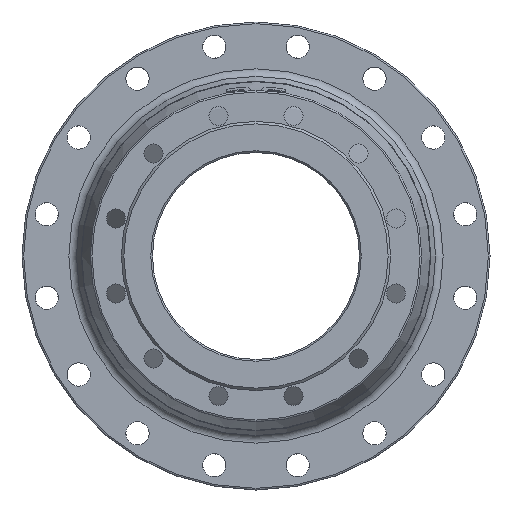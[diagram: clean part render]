
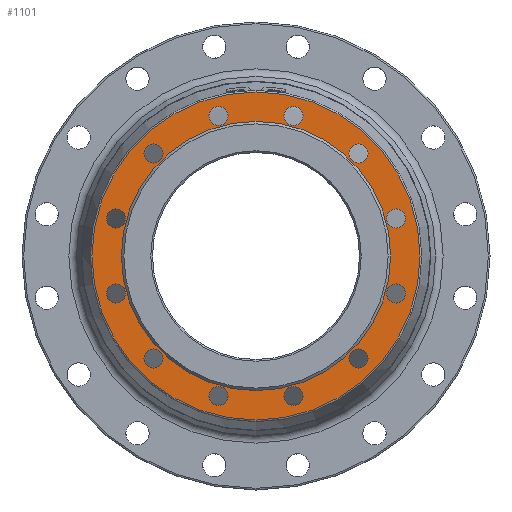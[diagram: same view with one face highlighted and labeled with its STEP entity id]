
A CAD part, left-side view. The second image highlights one B-rep face of the part: STEP entity #1101.
In plain terms, the highlighted planar face has unit normal (-1, 0, 0).
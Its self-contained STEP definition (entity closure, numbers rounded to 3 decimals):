
#4 = EDGE_LOOP ( 'NONE', ( #1000 ) ) ;
#81 = CIRCLE ( 'NONE', #2682, 11.5 ) ;
#111 = FACE_BOUND ( 'NONE', #119, .T. ) ;
#116 = CARTESIAN_POINT ( 'NONE',  ( 3., -178.996, -51.043 ) ) ;
#119 = EDGE_LOOP ( 'NONE', ( #507 ) ) ;
#128 = ORIENTED_EDGE ( 'NONE', *, *, #1301, .F. ) ;
#158 = DIRECTION ( 'NONE',  ( -1., 0., 0. ) ) ;
#177 = ORIENTED_EDGE ( 'NONE', *, *, #2835, .F. ) ;
#196 = AXIS2_PLACEMENT_3D ( 'NONE', #563, #2778, #605 ) ;
#205 = ORIENTED_EDGE ( 'NONE', *, *, #330, .F. ) ;
#231 = EDGE_LOOP ( 'NONE', ( #1977 ) ) ;
#253 = CIRCLE ( 'NONE', #2913, 11.5 ) ;
#269 = CARTESIAN_POINT ( 'NONE',  ( 3., -169.037, -45.293 ) ) ;
#296 = FACE_BOUND ( 'NONE', #3067, .T. ) ;
#313 = CIRCLE ( 'NONE', #2297, 11.5 ) ;
#330 = EDGE_CURVE ( 'NONE', #1113, #1113, #81, .T. ) ;
#341 = VERTEX_POINT ( 'NONE', #116 ) ;
#364 = DIRECTION ( 'NONE',  ( 0., 0., -1. ) ) ;
#423 = ORIENTED_EDGE ( 'NONE', *, *, #436, .F. ) ;
#436 = EDGE_CURVE ( 'NONE', #1080, #1080, #2166, .T. ) ;
#474 = EDGE_LOOP ( 'NONE', ( #2777 ) ) ;
#486 = EDGE_CURVE ( 'NONE', #2962, #2962, #1558, .T. ) ;
#507 = ORIENTED_EDGE ( 'NONE', *, *, #486, .F. ) ;
#534 = CIRCLE ( 'NONE', #2118, 11.5 ) ;
#563 = CARTESIAN_POINT ( 'NONE',  ( 3., 45.293, -169.037 ) ) ;
#568 = FACE_BOUND ( 'NONE', #4, .T. ) ;
#578 = DIRECTION ( 'NONE',  ( 0., 0.866, 0.5 ) ) ;
#591 = EDGE_CURVE ( 'NONE', #1881, #1881, #2346, .T. ) ;
#605 = DIRECTION ( 'NONE',  ( 0., 0.5, -0.866 ) ) ;
#617 = VERTEX_POINT ( 'NONE', #1189 ) ;
#647 = CARTESIAN_POINT ( 'NONE',  ( 3., 123.744, -123.744 ) ) ;
#668 = DIRECTION ( 'NONE',  ( 0., 0., -1. ) ) ;
#682 = CARTESIAN_POINT ( 'NONE',  ( 3., -123.744, 123.744 ) ) ;
#709 = DIRECTION ( 'NONE',  ( 0., -0.866, 0.5 ) ) ;
#718 = CIRCLE ( 'NONE', #2460, 11.5 ) ;
#725 = CARTESIAN_POINT ( 'NONE',  ( 3., 0., -198. ) ) ;
#760 = CARTESIAN_POINT ( 'NONE',  ( 3., -45.293, -169.037 ) ) ;
#775 = CIRCLE ( 'NONE', #3420, 11.5 ) ;
#812 = EDGE_LOOP ( 'NONE', ( #128 ) ) ;
#819 = FACE_OUTER_BOUND ( 'NONE', #2888, .T. ) ;
#840 = FACE_BOUND ( 'NONE', #2081, .T. ) ;
#845 = CARTESIAN_POINT ( 'NONE',  ( 3., 45.293, 180.537 ) ) ;
#883 = AXIS2_PLACEMENT_3D ( 'NONE', #2303, #2839, #668 ) ;
#907 = DIRECTION ( 'NONE',  ( -1., 0., 0. ) ) ;
#923 = EDGE_LOOP ( 'NONE', ( #423 ) ) ;
#936 = CARTESIAN_POINT ( 'NONE',  ( 3., -180.537, 45.293 ) ) ;
#960 = VERTEX_POINT ( 'NONE', #936 ) ;
#971 = EDGE_CURVE ( 'NONE', #341, #341, #534, .T. ) ;
#981 = DIRECTION ( 'NONE',  ( 0., -0.5, 0.866 ) ) ;
#1000 = ORIENTED_EDGE ( 'NONE', *, *, #1444, .F. ) ;
#1007 = AXIS2_PLACEMENT_3D ( 'NONE', #1123, #1139, #3266 ) ;
#1021 = EDGE_LOOP ( 'NONE', ( #3085 ) ) ;
#1023 = CARTESIAN_POINT ( 'NONE',  ( 3., -123.744, -123.744 ) ) ;
#1027 = CARTESIAN_POINT ( 'NONE',  ( 3., -133.703, 129.494 ) ) ;
#1067 = EDGE_CURVE ( 'NONE', #617, #617, #1947, .T. ) ;
#1080 = VERTEX_POINT ( 'NONE', #2147 ) ;
#1101 = ADVANCED_FACE ( 'NONE', ( #819, #2977, #3255, #840, #2748, #1912, #2995, #568, #2727, #296, #3382, #2852, #111, #1759 ), #2594, .F. ) ;
#1113 = VERTEX_POINT ( 'NONE', #1644 ) ;
#1123 = CARTESIAN_POINT ( 'NONE',  ( 3., 169.037, -45.293 ) ) ;
#1139 = DIRECTION ( 'NONE',  ( -1., 0., 0. ) ) ;
#1159 = EDGE_CURVE ( 'NONE', #960, #960, #775, .T. ) ;
#1189 = CARTESIAN_POINT ( 'NONE',  ( 3., 0., 162.5 ) ) ;
#1213 = DIRECTION ( 'NONE',  ( -1., 0., 0. ) ) ;
#1229 = AXIS2_PLACEMENT_3D ( 'NONE', #3263, #3004, #578 ) ;
#1248 = CARTESIAN_POINT ( 'NONE',  ( 3., 51.043, -178.996 ) ) ;
#1261 = VERTEX_POINT ( 'NONE', #1027 ) ;
#1280 = AXIS2_PLACEMENT_3D ( 'NONE', #2318, #2281, #2051 ) ;
#1294 = DIRECTION ( 'NONE',  ( -1., 0., 0. ) ) ;
#1301 = EDGE_CURVE ( 'NONE', #2308, #2308, #253, .T. ) ;
#1355 = DIRECTION ( 'NONE',  ( 0., 0., 1. ) ) ;
#1380 = CARTESIAN_POINT ( 'NONE',  ( 3., 178.996, 51.043 ) ) ;
#1444 = EDGE_CURVE ( 'NONE', #1490, #1490, #1455, .T. ) ;
#1455 = CIRCLE ( 'NONE', #196, 11.5 ) ;
#1469 = CARTESIAN_POINT ( 'NONE',  ( 3., -169.037, 45.293 ) ) ;
#1490 = VERTEX_POINT ( 'NONE', #1248 ) ;
#1558 = CIRCLE ( 'NONE', #2008, 11.5 ) ;
#1602 = DIRECTION ( 'NONE',  ( -1., 0., 0. ) ) ;
#1644 = CARTESIAN_POINT ( 'NONE',  ( 3., 133.703, -129.494 ) ) ;
#1697 = CARTESIAN_POINT ( 'NONE',  ( 3., 180.537, -45.293 ) ) ;
#1703 = EDGE_LOOP ( 'NONE', ( #2647 ) ) ;
#1750 = ORIENTED_EDGE ( 'NONE', *, *, #1159, .F. ) ;
#1752 = VERTEX_POINT ( 'NONE', #3333 ) ;
#1759 = FACE_BOUND ( 'NONE', #3398, .T. ) ;
#1781 = AXIS2_PLACEMENT_3D ( 'NONE', #2500, #3270, #2442 ) ;
#1815 = EDGE_CURVE ( 'NONE', #1752, #1752, #313, .T. ) ;
#1881 = VERTEX_POINT ( 'NONE', #1380 ) ;
#1912 = FACE_BOUND ( 'NONE', #812, .T. ) ;
#1947 = CIRCLE ( 'NONE', #1781, 162.5 ) ;
#1963 = ORIENTED_EDGE ( 'NONE', *, *, #1067, .F. ) ;
#1976 = EDGE_LOOP ( 'NONE', ( #205 ) ) ;
#1977 = ORIENTED_EDGE ( 'NONE', *, *, #1815, .F. ) ;
#2004 = DIRECTION ( 'NONE',  ( 0., -1., 0. ) ) ;
#2008 = AXIS2_PLACEMENT_3D ( 'NONE', #2671, #2921, #1355 ) ;
#2051 = DIRECTION ( 'NONE',  ( 0., 0.5, 0.866 ) ) ;
#2081 = EDGE_LOOP ( 'NONE', ( #1750 ) ) ;
#2098 = DIRECTION ( 'NONE',  ( 0., 0., -1. ) ) ;
#2118 = AXIS2_PLACEMENT_3D ( 'NONE', #269, #1294, #2366 ) ;
#2125 = EDGE_LOOP ( 'NONE', ( #177 ) ) ;
#2147 = CARTESIAN_POINT ( 'NONE',  ( 3., 129.494, 133.703 ) ) ;
#2166 = CIRCLE ( 'NONE', #1280, 11.5 ) ;
#2266 = CARTESIAN_POINT ( 'NONE',  ( 3., -45.293, 169.037 ) ) ;
#2281 = DIRECTION ( 'NONE',  ( -1., 0., 0. ) ) ;
#2297 = AXIS2_PLACEMENT_3D ( 'NONE', #760, #3405, #2098 ) ;
#2303 = CARTESIAN_POINT ( 'NONE',  ( 3., 162.5, 0. ) ) ;
#2308 = VERTEX_POINT ( 'NONE', #3052 ) ;
#2318 = CARTESIAN_POINT ( 'NONE',  ( 3., 123.744, 123.744 ) ) ;
#2343 = VERTEX_POINT ( 'NONE', #2929 ) ;
#2346 = CIRCLE ( 'NONE', #1229, 11.5 ) ;
#2366 = DIRECTION ( 'NONE',  ( 0., -0.866, -0.5 ) ) ;
#2442 = DIRECTION ( 'NONE',  ( 0., 0., 1. ) ) ;
#2460 = AXIS2_PLACEMENT_3D ( 'NONE', #682, #2566, #709 ) ;
#2466 = CIRCLE ( 'NONE', #1007, 11.5 ) ;
#2499 = DIRECTION ( 'NONE',  ( 0., 0.866, -0.5 ) ) ;
#2500 = CARTESIAN_POINT ( 'NONE',  ( 3., 0., 0. ) ) ;
#2566 = DIRECTION ( 'NONE',  ( -1., 0., 0. ) ) ;
#2594 = PLANE ( 'NONE',  #883 ) ;
#2639 = CIRCLE ( 'NONE', #3247, 11.5 ) ;
#2642 = CIRCLE ( 'NONE', #3476, 198. ) ;
#2647 = ORIENTED_EDGE ( 'NONE', *, *, #971, .F. ) ;
#2671 = CARTESIAN_POINT ( 'NONE',  ( 3., 45.293, 169.037 ) ) ;
#2682 = AXIS2_PLACEMENT_3D ( 'NONE', #647, #1213, #2499 ) ;
#2711 = ORIENTED_EDGE ( 'NONE', *, *, #3344, .T. ) ;
#2727 = FACE_BOUND ( 'NONE', #1976, .T. ) ;
#2731 = EDGE_CURVE ( 'NONE', #3034, #3034, #2466, .T. ) ;
#2748 = FACE_BOUND ( 'NONE', #1703, .T. ) ;
#2777 = ORIENTED_EDGE ( 'NONE', *, *, #2911, .F. ) ;
#2778 = DIRECTION ( 'NONE',  ( -1., 0., 0. ) ) ;
#2835 = EDGE_CURVE ( 'NONE', #1261, #1261, #718, .T. ) ;
#2839 = DIRECTION ( 'NONE',  ( 1., 0., 0. ) ) ;
#2852 = FACE_BOUND ( 'NONE', #923, .T. ) ;
#2888 = EDGE_LOOP ( 'NONE', ( #2711 ) ) ;
#2901 = ORIENTED_EDGE ( 'NONE', *, *, #2731, .F. ) ;
#2911 = EDGE_CURVE ( 'NONE', #2343, #2343, #2639, .T. ) ;
#2913 = AXIS2_PLACEMENT_3D ( 'NONE', #1023, #1602, #3213 ) ;
#2921 = DIRECTION ( 'NONE',  ( -1., 0., 0. ) ) ;
#2929 = CARTESIAN_POINT ( 'NONE',  ( 3., -51.043, 178.996 ) ) ;
#2962 = VERTEX_POINT ( 'NONE', #845 ) ;
#2977 = FACE_BOUND ( 'NONE', #474, .T. ) ;
#2995 = FACE_BOUND ( 'NONE', #231, .T. ) ;
#3004 = DIRECTION ( 'NONE',  ( -1., 0., 0. ) ) ;
#3034 = VERTEX_POINT ( 'NONE', #1697 ) ;
#3052 = CARTESIAN_POINT ( 'NONE',  ( 3., -129.494, -133.703 ) ) ;
#3067 = EDGE_LOOP ( 'NONE', ( #2901 ) ) ;
#3085 = ORIENTED_EDGE ( 'NONE', *, *, #591, .F. ) ;
#3213 = DIRECTION ( 'NONE',  ( 0., -0.5, -0.866 ) ) ;
#3247 = AXIS2_PLACEMENT_3D ( 'NONE', #2266, #158, #981 ) ;
#3255 = FACE_BOUND ( 'NONE', #2125, .T. ) ;
#3263 = CARTESIAN_POINT ( 'NONE',  ( 3., 169.037, 45.293 ) ) ;
#3266 = DIRECTION ( 'NONE',  ( 0., 1., 0. ) ) ;
#3270 = DIRECTION ( 'NONE',  ( -1., 0., 0. ) ) ;
#3320 = CARTESIAN_POINT ( 'NONE',  ( 3., 0., 0. ) ) ;
#3333 = CARTESIAN_POINT ( 'NONE',  ( 3., -45.293, -180.537 ) ) ;
#3343 = DIRECTION ( 'NONE',  ( -1., 0., 0. ) ) ;
#3344 = EDGE_CURVE ( 'NONE', #3418, #3418, #2642, .T. ) ;
#3382 = FACE_BOUND ( 'NONE', #1021, .T. ) ;
#3398 = EDGE_LOOP ( 'NONE', ( #1963 ) ) ;
#3405 = DIRECTION ( 'NONE',  ( -1., 0., 0. ) ) ;
#3418 = VERTEX_POINT ( 'NONE', #725 ) ;
#3420 = AXIS2_PLACEMENT_3D ( 'NONE', #1469, #3343, #2004 ) ;
#3476 = AXIS2_PLACEMENT_3D ( 'NONE', #3320, #907, #364 ) ;
